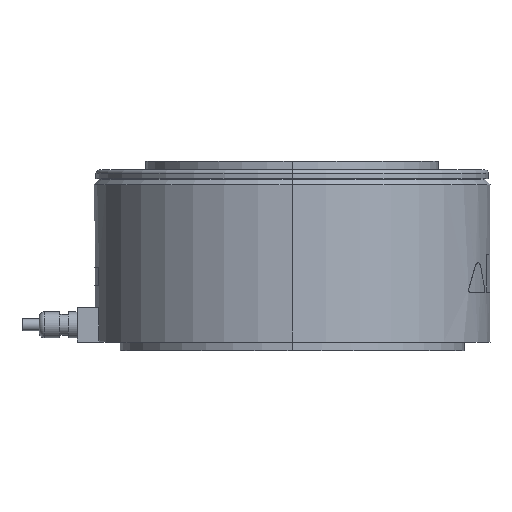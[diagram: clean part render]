
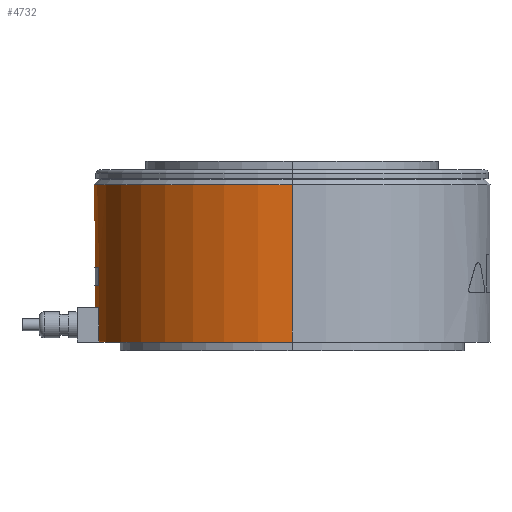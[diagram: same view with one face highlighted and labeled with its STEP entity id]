
A CAD part, left-side view. The second image highlights one B-rep face of the part: STEP entity #4732.
In plain terms, the highlighted cylindrical face has radius 115 mm (diameter 230 mm), a partial arc.
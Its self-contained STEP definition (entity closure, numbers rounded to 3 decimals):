
#1003 = CARTESIAN_POINT ( 'NONE',  ( 115., 0., 96.5 ) ) ;
#1005 = CARTESIAN_POINT ( 'NONE',  ( -115., 0., 96.5 ) ) ;
#1265 = AXIS2_PLACEMENT_3D ( 'NONE', #4455, #4456, #4457 ) ;
#1267 = AXIS2_PLACEMENT_3D ( 'NONE', #4435, #4437, #4441 ) ;
#1269 = AXIS2_PLACEMENT_3D ( 'NONE', #4433, #4444, #4445 ) ;
#1645 = FACE_BOUND ( 'NONE', #4939, .T. ) ;
#1648 = CYLINDRICAL_SURFACE ( 'NONE', #4666, 115. ) ;
#1652 = FACE_BOUND ( 'NONE', #4946, .T. ) ;
#1654 = FACE_OUTER_BOUND ( 'NONE', #4947, .T. ) ;
#2381 = CIRCLE ( 'NONE', #2450, 115. ) ;
#2407 = LINE ( 'NONE', #2703, #2408 ) ;
#2408 = VECTOR ( 'NONE', #2704, 1000. ) ;
#2415 = CIRCLE ( 'NONE', #2461, 115. ) ;
#2419 = CIRCLE ( 'NONE', #2463, 115. ) ;
#2450 = AXIS2_PLACEMENT_3D ( 'NONE', #2658, #2659, #2660 ) ;
#2461 = AXIS2_PLACEMENT_3D ( 'NONE', #2698, #2711, #2712 ) ;
#2463 = AXIS2_PLACEMENT_3D ( 'NONE', #2713, #2723, #2724 ) ;
#2658 = CARTESIAN_POINT ( 'NONE',  ( 0., 0., 96.5 ) ) ;
#2659 = DIRECTION ( 'NONE',  ( 0., 0., -1. ) ) ;
#2660 = DIRECTION ( 'NONE',  ( -1., 0., 0. ) ) ;
#2698 = CARTESIAN_POINT ( 'NONE',  ( 0., 0., 48.5 ) ) ;
#2703 = CARTESIAN_POINT ( 'NONE',  ( -25., 112.25, 0. ) ) ;
#2704 = DIRECTION ( 'NONE',  ( 0., 0., 1. ) ) ;
#2711 = DIRECTION ( 'NONE',  ( 0., 0., -1. ) ) ;
#2712 = DIRECTION ( 'NONE',  ( 1., 0., 0. ) ) ;
#2713 = CARTESIAN_POINT ( 'NONE',  ( 0., 0., 6. ) ) ;
#2723 = DIRECTION ( 'NONE',  ( 0., 0., 1. ) ) ;
#2724 = DIRECTION ( 'NONE',  ( -1., 0., 0. ) ) ;
#3199 = CARTESIAN_POINT ( 'NONE',  ( 25., 112.25, 25. ) ) ;
#3200 = CARTESIAN_POINT ( 'NONE',  ( -25., 112.25, 25. ) ) ;
#3201 = CARTESIAN_POINT ( 'NONE',  ( -25., 112.25, 6. ) ) ;
#3202 = CARTESIAN_POINT ( 'NONE',  ( 25., 112.25, 6. ) ) ;
#3203 = CARTESIAN_POINT ( 'NONE',  ( -25., 112.25, 38. ) ) ;
#3204 = CARTESIAN_POINT ( 'NONE',  ( -25., 112.25, 48.5 ) ) ;
#3205 = CARTESIAN_POINT ( 'NONE',  ( 25., 112.25, 38. ) ) ;
#3206 = CARTESIAN_POINT ( 'NONE',  ( 25., 112.25, 48.5 ) ) ;
#3207 = CARTESIAN_POINT ( 'NONE',  ( 115., 0., 5. ) ) ;
#3208 = CARTESIAN_POINT ( 'NONE',  ( -115., 0., 5. ) ) ;
#3850 = VERTEX_POINT ( 'NONE', #1003 ) ;
#3851 = VERTEX_POINT ( 'NONE', #1005 ) ;
#4124 = EDGE_CURVE ( 'NONE', #6588, #6589, #4309, .T. ) ;
#4125 = EDGE_CURVE ( 'NONE', #6587, #6588, #4313, .T. ) ;
#4126 = EDGE_CURVE ( 'NONE', #6590, #6587, #4307, .T. ) ;
#4127 = EDGE_CURVE ( 'NONE', #6593, #6591, #4316, .T. ) ;
#4128 = EDGE_CURVE ( 'NONE', #6594, #6593, #4315, .T. ) ;
#4129 = EDGE_CURVE ( 'NONE', #3851, #6596, #4311, .T. ) ;
#4130 = EDGE_CURVE ( 'NONE', #3850, #6595, #4314, .T. ) ;
#4132 = EDGE_CURVE ( 'NONE', #6596, #6595, #4322, .T. ) ;
#4295 = VECTOR ( 'NONE', #4434, 1000. ) ;
#4303 = VECTOR ( 'NONE', #4443, 1000. ) ;
#4307 = LINE ( 'NONE', #4442, #4303 ) ;
#4309 = LINE ( 'NONE', #4428, #4295 ) ;
#4311 = LINE ( 'NONE', #4446, #4317 ) ;
#4312 = VECTOR ( 'NONE', #4447, 1000. ) ;
#4313 = CIRCLE ( 'NONE', #1267, 115. ) ;
#4314 = LINE ( 'NONE', #4448, #4319 ) ;
#4315 = LINE ( 'NONE', #4436, #4312 ) ;
#4316 = CIRCLE ( 'NONE', #1269, 115. ) ;
#4317 = VECTOR ( 'NONE', #4449, 1000. ) ;
#4319 = VECTOR ( 'NONE', #4451, 1000. ) ;
#4322 = CIRCLE ( 'NONE', #1265, 115. ) ;
#4428 = CARTESIAN_POINT ( 'NONE',  ( -25., 112.25, 0. ) ) ;
#4433 = CARTESIAN_POINT ( 'NONE',  ( 0., 0., 38. ) ) ;
#4434 = DIRECTION ( 'NONE',  ( 0., 0., -1. ) ) ;
#4435 = CARTESIAN_POINT ( 'NONE',  ( 0., 0., 25. ) ) ;
#4436 = CARTESIAN_POINT ( 'NONE',  ( 25., 112.25, 0. ) ) ;
#4437 = DIRECTION ( 'NONE',  ( 0., 0., 1. ) ) ;
#4441 = DIRECTION ( 'NONE',  ( -1., 0., 0. ) ) ;
#4442 = CARTESIAN_POINT ( 'NONE',  ( 25., 112.25, 0. ) ) ;
#4443 = DIRECTION ( 'NONE',  ( 0., 0., 1. ) ) ;
#4444 = DIRECTION ( 'NONE',  ( 0., 0., 1. ) ) ;
#4445 = DIRECTION ( 'NONE',  ( -1., 0., 0. ) ) ;
#4446 = CARTESIAN_POINT ( 'NONE',  ( -115., 0., 0. ) ) ;
#4447 = DIRECTION ( 'NONE',  ( 0., 0., -1. ) ) ;
#4448 = CARTESIAN_POINT ( 'NONE',  ( 115., 0., 0. ) ) ;
#4449 = DIRECTION ( 'NONE',  ( 0., 0., -1. ) ) ;
#4451 = DIRECTION ( 'NONE',  ( 0., 0., -1. ) ) ;
#4455 = CARTESIAN_POINT ( 'NONE',  ( 0., 0., 5. ) ) ;
#4456 = DIRECTION ( 'NONE',  ( 0., 0., -1. ) ) ;
#4457 = DIRECTION ( 'NONE',  ( -1., 0., 0. ) ) ;
#4666 = AXIS2_PLACEMENT_3D ( 'NONE', #5571, #5574, #5573 ) ;
#4732 = ADVANCED_FACE ( 'NONE', ( #1645, #1652, #1654 ), #1648, .T. ) ;
#4939 = EDGE_LOOP ( 'NONE', ( #6017, #6018, #6019, #6020 ) ) ;
#4946 = EDGE_LOOP ( 'NONE', ( #6021, #6022, #6023, #6024 ) ) ;
#4947 = EDGE_LOOP ( 'NONE', ( #6025, #6026, #6027, #6028 ) ) ;
#5232 = EDGE_CURVE ( 'NONE', #3851, #3850, #2381, .T. ) ;
#5250 = EDGE_CURVE ( 'NONE', #6591, #6592, #2407, .T. ) ;
#5254 = EDGE_CURVE ( 'NONE', #6592, #6594, #2415, .T. ) ;
#5258 = EDGE_CURVE ( 'NONE', #6590, #6589, #2419, .T. ) ;
#5571 = CARTESIAN_POINT ( 'NONE',  ( 0., 0., 0. ) ) ;
#5573 = DIRECTION ( 'NONE',  ( -1., 0., 0. ) ) ;
#5574 = DIRECTION ( 'NONE',  ( 0., 0., -1. ) ) ;
#6017 = ORIENTED_EDGE ( 'NONE', *, *, #4125, .T. ) ;
#6018 = ORIENTED_EDGE ( 'NONE', *, *, #4124, .T. ) ;
#6019 = ORIENTED_EDGE ( 'NONE', *, *, #5258, .F. ) ;
#6020 = ORIENTED_EDGE ( 'NONE', *, *, #4126, .T. ) ;
#6021 = ORIENTED_EDGE ( 'NONE', *, *, #5250, .F. ) ;
#6022 = ORIENTED_EDGE ( 'NONE', *, *, #4127, .F. ) ;
#6023 = ORIENTED_EDGE ( 'NONE', *, *, #4128, .F. ) ;
#6024 = ORIENTED_EDGE ( 'NONE', *, *, #5254, .F. ) ;
#6025 = ORIENTED_EDGE ( 'NONE', *, *, #5232, .T. ) ;
#6026 = ORIENTED_EDGE ( 'NONE', *, *, #4130, .T. ) ;
#6027 = ORIENTED_EDGE ( 'NONE', *, *, #4132, .F. ) ;
#6028 = ORIENTED_EDGE ( 'NONE', *, *, #4129, .F. ) ;
#6587 = VERTEX_POINT ( 'NONE', #3199 ) ;
#6588 = VERTEX_POINT ( 'NONE', #3200 ) ;
#6589 = VERTEX_POINT ( 'NONE', #3201 ) ;
#6590 = VERTEX_POINT ( 'NONE', #3202 ) ;
#6591 = VERTEX_POINT ( 'NONE', #3203 ) ;
#6592 = VERTEX_POINT ( 'NONE', #3204 ) ;
#6593 = VERTEX_POINT ( 'NONE', #3205 ) ;
#6594 = VERTEX_POINT ( 'NONE', #3206 ) ;
#6595 = VERTEX_POINT ( 'NONE', #3207 ) ;
#6596 = VERTEX_POINT ( 'NONE', #3208 ) ;
